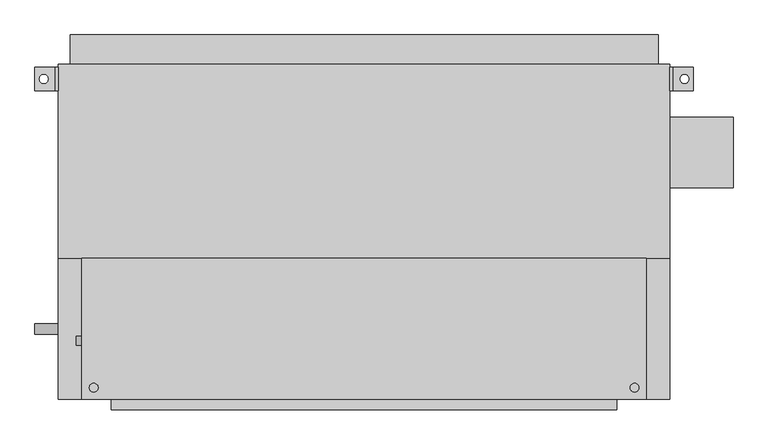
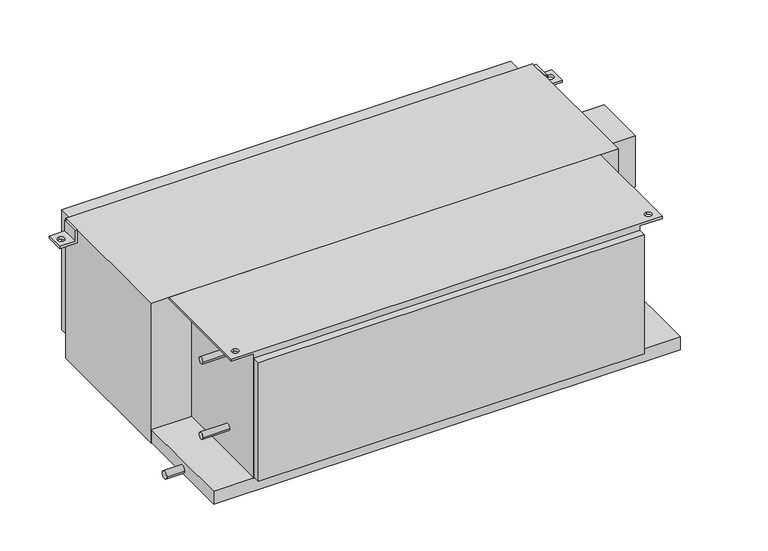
"""IFC4 building model written with IfcOpenShell, lengths in millimetres: proxy geometry, Concealed_High_Capacity_Horizontal_Fan_Coil_Unit_With_Plenum_-_42DCA_-_CARRIER_-_2-Pipe_Cool-EHeat_LH_2022 : Size 18 - 277v/60Hz/1Ph - 6 Row 12.0kW."""

from ifc_helpers import new_model, si_unit, point, frame, frame_2d, origin, place, context, project, spatial, polyline, circle_curve, trimmed, segment, composite_curve, outline, extrude, source, transform, mapped, element, save
from ifc_brep_helpers import plane_surface, revolved_surface, advanced_brep


def mechanical_equipment_2556d2f0(model_context):
    return source(origin(), model_context, "Body", "SolidModel", [
        advanced_brep(
        [(-508.0, 327.025, -38.1), (-558.8, 327.025, -38.1), (-558.8, 327.025, -31.75), (-514.35, 327.025, -31.75), (-514.35, 327.025, 0.0), (-508.0, 327.025, 0.0), (-508.0, 276.225, -38.1), (-508.0, 276.225, 0.0), (-514.35, 276.225, 0.0), (-514.35, 276.225, -31.75), (-558.8, 276.225, -31.75), (-558.8, 276.225, -38.1), (-539.75, 292.1, -38.1), (-539.75, 311.15, -38.1), (-539.75, 311.15, -31.75), (-539.75, 292.1, -31.75)],
        [
            (0, 1),
            (1, 2),
            (2, 3),
            (3, 4),
            (4, 5),
            (5, 0),
            (6, 7),
            (7, 8),
            (8, 9),
            (9, 10),
            (10, 11),
            (11, 6),
            (0, 6),
            (11, 1),
            (12, 13, circle_curve(frame((-539.75, 301.625, -38.1), z_axis=(0.0, 0.0, 1.0), x_axis=(0.0, -1.0, 0.0)), 9.525)),
            (13, 12, circle_curve(frame((-539.75, 301.625, -38.1), z_axis=(0.0, 0.0, 1.0), x_axis=(0.0, -1.0, 0.0)), 9.525)),
            (10, 2),
            (9, 3),
            (14, 15, circle_curve(frame((-539.75, 301.625, -31.75), z_axis=(0.0, 0.0, -1.0), x_axis=(0.0, -1.0, 0.0)), 9.525)),
            (15, 14, circle_curve(frame((-539.75, 301.625, -31.75), z_axis=(0.0, 0.0, -1.0), x_axis=(0.0, -1.0, 0.0)), 9.525)),
            (8, 4),
            (7, 5),
            (14, 13),
            (12, 15),
        ],
        [
            plane_surface(frame((-508.0, 327.025, -38.1), z_axis=(0.0, 1.0, 0.0), x_axis=(-1.0, 0.0, 0.0))),
            plane_surface(frame((-508.0, 276.225, -38.1), z_axis=(0.0, -1.0, 0.0), x_axis=(1.0, 0.0, 0.0))),
            plane_surface(frame((-508.0, 327.025, -38.1), z_axis=(0.0, 0.0, -1.0), x_axis=(0.0, -1.0, 0.0))),
            plane_surface(frame((-558.8, 327.025, -38.1), z_axis=(-1.0, 0.0, 0.0), x_axis=(0.0, -1.0, 0.0))),
            plane_surface(frame((-558.8, 327.025, -31.75), z_axis=(0.0, 0.0, 1.0), x_axis=(0.0, -1.0, 0.0))),
            plane_surface(frame((-514.35, 327.025, -31.75), z_axis=(-1.0, 0.0, 0.0), x_axis=(0.0, -1.0, 0.0))),
            plane_surface(frame((-514.35, 327.025, 0.0), z_axis=(0.0, 0.0, 1.0), x_axis=(0.0, -1.0, 0.0))),
            plane_surface(frame((-508.0, 327.025, 0.0), z_axis=(1.0, 0.0, 0.0), x_axis=(0.0, -1.0, 0.0))),
            revolved_surface(polyline([(-539.75, 292.1, -38.1), (-539.75, 292.1, -31.75)]), (-539.75, 301.625, -31.75), (0.0, 0.0, -1.0)),
        ],
        [
            (0, [[1, 2, 3, 4, 5, 6]]),
            (1, [[7, 8, 9, 10, 11, 12]]),
            (2, [[-1, 13, -12, 14], [15, 16]]),
            (3, [[-2, -14, -11, 17]]),
            (4, [[-3, -17, -10, 18], [19, 20]]),
            (5, [[-4, -18, -9, 21]]),
            (6, [[-5, -21, -8, 22]]),
            (7, [[-6, -22, -7, -13]]),
            (8, [[23, -15, 24, -19]]),
            (8, [[-23, -20, -24, -16]]),
        ],
    ),
        advanced_brep(
        [(812.8, 327.025, -38.1), (812.8, 327.025, 0.0), (819.15, 327.025, 0.0), (819.15, 327.025, -31.75), (863.6, 327.025, -31.75), (863.6, 327.025, -38.1), (812.8, 276.225, -38.1), (863.6, 276.225, -38.1), (863.6, 276.225, -31.75), (819.15, 276.225, -31.75), (819.15, 276.225, 0.0), (812.8, 276.225, 0.0), (844.55, 311.15, -31.75), (844.55, 292.1, -31.75), (844.55, 292.1, -38.1), (844.55, 311.15, -38.1)],
        [
            (0, 1),
            (1, 2),
            (2, 3),
            (3, 4),
            (4, 5),
            (5, 0),
            (6, 7),
            (7, 8),
            (8, 9),
            (9, 10),
            (10, 11),
            (11, 6),
            (0, 6),
            (11, 1),
            (10, 2),
            (9, 3),
            (8, 4),
            (12, 13, circle_curve(frame((844.55, 301.625, -31.75), z_axis=(0.0, 0.0, -1.0), x_axis=(0.0, -1.0, 0.0)), 9.525)),
            (13, 12, circle_curve(frame((844.55, 301.625, -31.75), z_axis=(0.0, 0.0, -1.0), x_axis=(0.0, -1.0, 0.0)), 9.525)),
            (7, 5),
            (14, 15, circle_curve(frame((844.55, 301.625, -38.1), z_axis=(0.0, 0.0, 1.0), x_axis=(0.0, -1.0, 0.0)), 9.525)),
            (15, 14, circle_curve(frame((844.55, 301.625, -38.1), z_axis=(0.0, 0.0, 1.0), x_axis=(0.0, -1.0, 0.0)), 9.525)),
            (12, 15),
            (14, 13),
        ],
        [
            plane_surface(frame((-508.0, 327.025, -38.1), z_axis=(0.0, 1.0, 0.0), x_axis=(-1.0, 0.0, 0.0))),
            plane_surface(frame((-508.0, 276.225, -38.1), z_axis=(0.0, -1.0, 0.0), x_axis=(1.0, 0.0, 0.0))),
            plane_surface(frame((812.8, 327.025, -38.1), z_axis=(-1.0, 0.0, 0.0), x_axis=(0.0, -1.0, 0.0))),
            plane_surface(frame((812.8, 327.025, 0.0), z_axis=(0.0, 0.0, 1.0), x_axis=(0.0, -1.0, 0.0))),
            plane_surface(frame((819.15, 327.025, 0.0), z_axis=(1.0, 0.0, 0.0), x_axis=(0.0, -1.0, 0.0))),
            plane_surface(frame((819.15, 327.025, -31.75), z_axis=(0.0, 0.0, 1.0), x_axis=(0.0, -1.0, 0.0))),
            plane_surface(frame((863.6, 327.025, -31.75), z_axis=(1.0, 0.0, 0.0), x_axis=(0.0, -1.0, 0.0))),
            plane_surface(frame((863.6, 327.025, -38.1), z_axis=(0.0, 0.0, -1.0), x_axis=(0.0, -1.0, 0.0))),
            revolved_surface(polyline([(844.55, 292.1, -38.1), (844.55, 292.1, -31.75)]), (844.55, 301.625, -31.75), (0.0, 0.0, -1.0)),
        ],
        [
            (0, [[1, 2, 3, 4, 5, 6]]),
            (1, [[7, 8, 9, 10, 11, 12]]),
            (2, [[-1, 13, -12, 14]]),
            (3, [[-2, -14, -11, 15]]),
            (4, [[-3, -15, -10, 16]]),
            (5, [[-4, -16, -9, 17], [18, 19]]),
            (6, [[-5, -17, -8, 20]]),
            (7, [[-6, -20, -7, -13], [21, 22]]),
            (8, [[23, -21, 24, -18]]),
            (8, [[-23, -19, -24, -22]]),
        ],
    ),
        advanced_brep(
        [(-457.2, -85.725, -6.35), (-393.7, -85.725, -6.35), (-393.7, -390.525, -6.35), (-457.2, -390.525, -6.35), (-431.8, -355.6, -6.35), (-431.8, -374.65, -6.35), (762.0, -85.725, -6.35), (762.0, -390.525, -6.35), (698.5, -390.525, -6.35), (698.5, -85.725, -6.35), (736.6, -355.6, -6.35), (736.6, -374.65, -6.35), (-457.2, -85.725, 0.0), (-457.2, -390.525, 0.0), (762.0, -390.525, 0.0), (762.0, -85.725, 0.0), (-431.8, -374.65, 0.0), (-431.8, -355.6, 0.0), (736.6, -374.65, 0.0), (736.6, -355.6, 0.0), (-393.7, -390.525, -377.825), (698.5, -390.525, -377.825), (698.5, -85.725, -377.825), (-393.7, -85.725, -377.825)],
        [
            (0, 1),
            (1, 2),
            (2, 3),
            (3, 0),
            (4, 5, circle_curve(frame((-431.8, -365.125, -6.35), z_axis=(0.0, 0.0, 1.0), x_axis=(0.0, 1.0, 0.0)), 9.525)),
            (5, 4, circle_curve(frame((-431.8, -365.125, -6.35), z_axis=(0.0, 0.0, 1.0), x_axis=(0.0, 1.0, 0.0)), 9.525)),
            (6, 7),
            (7, 8),
            (8, 9),
            (9, 6),
            (10, 11, circle_curve(frame((736.6, -365.125, -6.35), z_axis=(0.0, 0.0, 1.0), x_axis=(0.0, 1.0, 0.0)), 9.525)),
            (11, 10, circle_curve(frame((736.6, -365.125, -6.35), z_axis=(0.0, 0.0, 1.0), x_axis=(0.0, 1.0, 0.0)), 9.525)),
            (12, 13),
            (13, 14),
            (14, 15),
            (15, 12),
            (16, 17, circle_curve(frame((-431.8, -365.125, 0.0), z_axis=(0.0, 0.0, -1.0), x_axis=(0.0, 1.0, 0.0)), 9.525)),
            (17, 16, circle_curve(frame((-431.8, -365.125, 0.0), z_axis=(0.0, 0.0, -1.0), x_axis=(0.0, 1.0, 0.0)), 9.525)),
            (18, 19, circle_curve(frame((736.6, -365.125, 0.0), z_axis=(0.0, 0.0, -1.0), x_axis=(0.0, 1.0, 0.0)), 9.525)),
            (19, 18, circle_curve(frame((736.6, -365.125, 0.0), z_axis=(0.0, 0.0, -1.0), x_axis=(0.0, 1.0, 0.0)), 9.525)),
            (3, 13),
            (12, 0),
            (2, 20),
            (20, 21),
            (21, 8),
            (7, 14),
            (15, 6),
            (9, 22),
            (22, 23),
            (23, 1),
            (22, 21),
            (20, 23),
            (16, 5),
            (4, 17),
            (18, 11),
            (10, 19),
        ],
        [
            plane_surface(frame((-457.2, -85.725, -6.35), z_axis=(0.0, 0.0, -1.0), x_axis=(0.0, 1.0, 0.0))),
            plane_surface(frame((-457.2, -85.725, 0.0), z_axis=(0.0, 0.0, 1.0), x_axis=(0.0, -1.0, 0.0))),
            plane_surface(frame((-457.2, -85.725, 0.0), z_axis=(-1.0, 0.0, 0.0), x_axis=(0.0, 0.0, -1.0))),
            plane_surface(frame((-457.2, -390.525, 0.0), z_axis=(0.0, -1.0, 0.0), x_axis=(0.0, 0.0, -1.0))),
            plane_surface(frame((-393.7, -85.725, 0.0), z_axis=(0.0, 1.0, 0.0), x_axis=(0.0, 0.0, -1.0))),
            plane_surface(frame((762.0, -390.525, 0.0), z_axis=(1.0, 0.0, 0.0), x_axis=(0.0, 0.0, -1.0))),
            plane_surface(frame((-393.7, -85.725, -377.825), z_axis=(0.0, 0.0, -1.0), x_axis=(1.0, 0.0, 0.0))),
            plane_surface(frame((-393.7, -85.725, 0.0), z_axis=(-1.0, 0.0, 0.0), x_axis=(0.0, 0.0, -1.0))),
            plane_surface(frame((698.5, -390.525, 0.0), z_axis=(1.0, 0.0, 0.0), x_axis=(0.0, 0.0, -1.0))),
            revolved_surface(polyline([(-431.8, -355.6, -6.35), (-431.8, -355.6, 0.0)]), (-431.8, -365.125, 0.0), (0.0, 0.0, -1.0)),
            revolved_surface(polyline([(736.6, -355.6, -6.35), (736.6, -355.6, 0.0)]), (736.6, -365.125, 0.0), (0.0, 0.0, -1.0)),
        ],
        [
            (0, [[1, 2, 3, 4], [5, 6]]),
            (0, [[7, 8, 9, 10], [11, 12]]),
            (1, [[13, 14, 15, 16], [17, 18], [19, 20]]),
            (2, [[-4, 21, -13, 22]]),
            (3, [[-3, 23, 24, 25, -8, 26, -14, -21]]),
            (4, [[-1, -22, -16, 27, -10, 28, 29, 30]]),
            (5, [[-7, -27, -15, -26]]),
            (6, [[31, -24, 32, -29]]),
            (7, [[-32, -23, -2, -30]]),
            (8, [[-31, -28, -9, -25]]),
            (9, [[33, -5, 34, -17]]),
            (9, [[-33, -18, -34, -6]]),
            (10, [[35, -11, 36, -19]]),
            (10, [[-35, -20, -36, -12]]),
        ],
    ),
        extrude(outline(polyline([(-482.6, 396.875), (787.4, 396.875), (787.4, 333.375), (-482.6, 333.375), (-482.6, 396.875)])), frame((0.0, 0.0, -381.0), z_axis=(0.0, 0.0, 1.0), x_axis=(1.0, 0.0, 0.0)), (0.0, 0.0, 1.0), 358.775),
        extrude(outline(composite_curve([segment(trimmed(circle_curve(frame_2d((-263.525, -76.2)), 9.525), [point((-273.05, -76.2))], [point((-254.0, -76.2))], False, "CARTESIAN"), True, "CONTINUOUS"), segment(trimmed(circle_curve(frame_2d((-263.525, -76.2)), 9.525), [point((-254.0, -76.2))], [point((-273.05, -76.2))], False, "CARTESIAN"), True, "CONTINUOUS")], self_intersect=False)), frame((-469.9, 0.0, 0.0), z_axis=(1.0, 0.0, 0.0), x_axis=(0.0, 1.0, 0.0)), (0.0, 0.0, 1.0), 76.2),
        extrude(outline(composite_curve([segment(trimmed(circle_curve(frame_2d((-263.525, -301.625)), 9.525), [point((-273.05, -301.625))], [point((-254.0, -301.625))], False, "CARTESIAN"), True, "CONTINUOUS"), segment(trimmed(circle_curve(frame_2d((-263.525, -301.625)), 9.525), [point((-254.0, -301.625))], [point((-273.05, -301.625))], False, "CARTESIAN"), True, "CONTINUOUS")], self_intersect=False)), frame((-469.9, 0.0, 0.0), z_axis=(1.0, 0.0, 0.0), x_axis=(0.0, 1.0, 0.0)), (0.0, 0.0, 1.0), 76.2),
        extrude(outline(composite_curve([segment(trimmed(circle_curve(frame_2d((-238.125, -403.225)), 11.1125), [point((-249.2375, -403.225))], [point((-227.0125, -403.225))], False, "CARTESIAN"), True, "CONTINUOUS"), segment(trimmed(circle_curve(frame_2d((-238.125, -403.225)), 11.1125), [point((-227.0125, -403.225))], [point((-249.2375, -403.225))], False, "CARTESIAN"), True, "CONTINUOUS")], self_intersect=False)), frame((-558.8, 0.0, 0.0), z_axis=(1.0, 0.0, 0.0), x_axis=(0.0, 1.0, 0.0)), (0.0, 0.0, 1.0), 50.8),
        extrude(outline(polyline([(949.325, 219.075), (949.325, 66.675), (812.8, 66.675), (812.8, 219.075), (949.325, 219.075)])), frame((0.0, 0.0, -254.0), z_axis=(0.0, 0.0, 1.0), x_axis=(1.0, 0.0, 0.0)), (0.0, 0.0, 1.0), 152.4),
        extrude(outline(polyline([(698.5, -412.75), (-393.7, -412.75), (-393.7, -390.525), (698.5, -390.525), (698.5, -412.75)])), frame((0.0, 0.0, -374.65), z_axis=(0.0, 0.0, 1.0), x_axis=(1.0, 0.0, 0.0)), (0.0, 0.0, 1.0), 355.6),
        extrude(outline(polyline([(812.8, -85.725), (-508.0, -85.725), (-508.0, 333.375), (812.8, 333.375), (812.8, -85.725)])), frame((0.0, 0.0, -419.1), z_axis=(0.0, 0.0, 1.0), x_axis=(1.0, 0.0, 0.0)), (0.0, 0.0, 1.0), 419.1),
        extrude(outline(polyline([(812.8, -85.725), (812.8, -390.525), (-508.0, -390.525), (-508.0, -85.725), (812.8, -85.725)])), frame((0.0, 0.0, -415.925), z_axis=(0.0, 0.0, 1.0), x_axis=(1.0, 0.0, 0.0)), (0.0, 0.0, 1.0), 38.1),
    ])


if __name__ == "__main__":
    model = new_model("IFC4")
    model_context = context("Model", 3, world=origin())
    ifc_project = project(units=[si_unit("LENGTHUNIT", "METRE", prefix="MILLI")], contexts=[model_context])
    site = spatial("IfcSite", under=ifc_project)
    building = spatial("IfcBuilding", under=site)
    placement = place(None, origin())
    mechanical_equipment_shape = mechanical_equipment_2556d2f0(model_context)
    element("IfcBuildingElementProxy", 1, Name="Concealed_High_Capacity_Horizontal_Fan_Coil_Unit_With_Plenum_-_42DCA_-_CARRIER_-_2-Pipe_Cool-EHeat_LH_2022 : Size 18 - 277v/60Hz/1Ph - 6 Row 12.0kW", ObjectType="Concealed_High_Capacity_Horizontal_Fan_Coil_Unit_With_Plenum_-_42DCA_-_CARRIER_-_2-Pipe_Cool-EHeat_LH_2022 : Size 18 - 277v/60Hz/1Ph - 6 Row 12.0kW", at=placement, inside=building, context=model_context, shape_type="MappedRepresentation", body=[
        mapped(mechanical_equipment_shape, transform((0.0, 0.0, 0.0), x_axis=(1.0, 0.0, 0.0), y_axis=(0.0, 1.0, 0.0), z_axis=(0.0, 0.0, 1.0))),
    ])
    save(model, "model.ifc")
